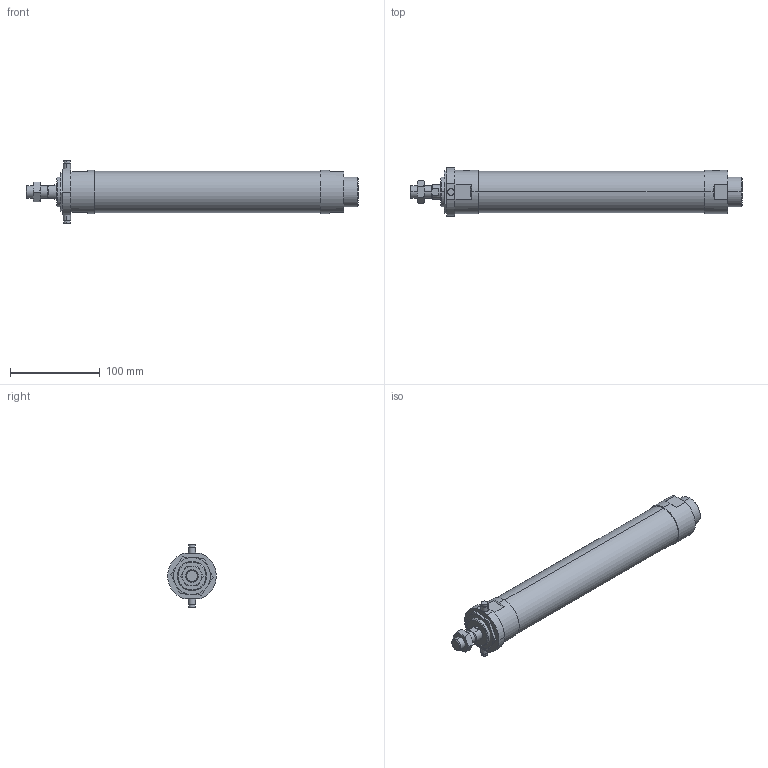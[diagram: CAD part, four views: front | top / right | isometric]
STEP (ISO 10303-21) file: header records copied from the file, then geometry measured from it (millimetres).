
FILE_DESCRIPTION (( 'STEP AP203' ), '1' );
FILE_NAME ('J#2-40-200-T.STEP', '2016-03-08T08:05:53', ( '' ), ( '' ), 'SwSTEP 2.0', 'SolidWorks 2014', '' );
FILE_SCHEMA (( 'CONFIG_CONTROL_DESIGN' ));
Length unit declared in the file: millimetre
Products named in the file (5): J#2-40-200-T; J#2-40-T; J#2-40-200
Assembly tree (4 placements, depth 2):
  J#2-40-200-T
    J#2-40-200
    (unnamed)
    (unnamed)
    J#2-40-T
Bounding box: 369 x 53.91 x 70 mm (x, y, z)
Volume: 558148.2 mm3; surface area: 63174.1 mm2
Topology: 4 solids, 4 shells, 121 faces, 279 edges, 171 vertices
Faces by surface type: plane 39, cylinder 35, torus 24, cone 23
Entity records: 4265 total; most frequent: CARTESIAN_POINT 1053, DIRECTION 576, ORIENTED_EDGE 550, EDGE_CURVE 275, AXIS2_PLACEMENT_3D 236, VERTEX_POINT 171, EDGE_LOOP 136, ADVANCED_FACE 121
